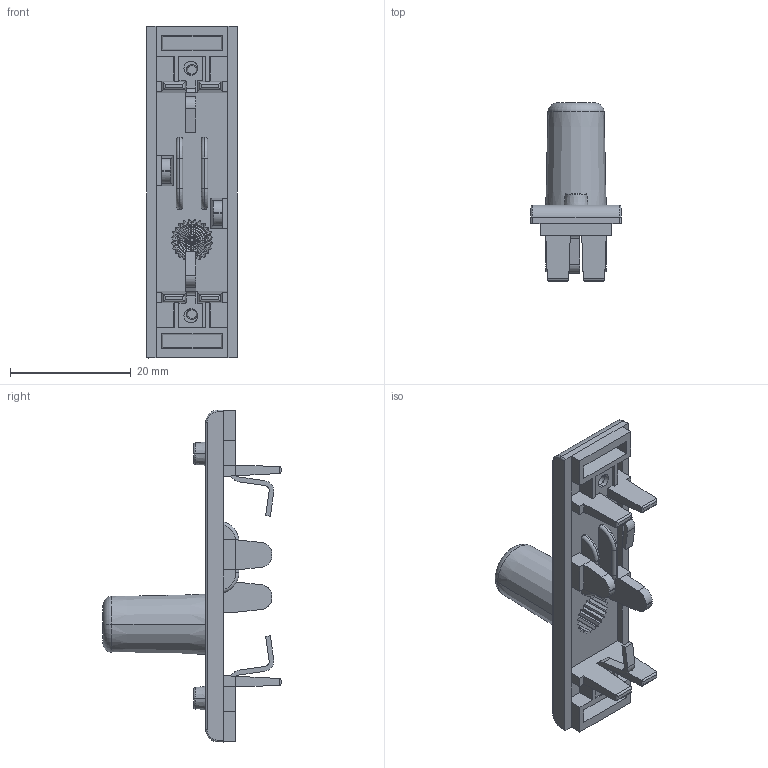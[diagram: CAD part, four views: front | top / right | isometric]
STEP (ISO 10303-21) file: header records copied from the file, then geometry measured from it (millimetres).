
FILE_DESCRIPTION((''),'2;1');
FILE_NAME('ASM0001_ASM','2016-06-16T',('Administrator'),(''),'PRO/ENGINEER BY PARAMETRIC TECHNOLOGY CORPORATION, 2012360','PRO/ENGINEER BY PARAMETRIC TECHNOLOGY CORPORATION, 2012360','');
FILE_SCHEMA(('CONFIG_CONTROL_DESIGN'));
Length unit declared in the file: inch
Products named in the file (1): ASM0001_ASM
Bounding box: 15 x 29.5 x 55 mm (x, y, z)
Volume: 3402.4 mm3; surface area: 4402.7 mm2
Topology: 1 solids, 1 shells, 335 faces, 866 edges, 544 vertices
Faces by surface type: plane 199, cylinder 60, cone 58, torus 18
Entity records: 10341 total; most frequent: CARTESIAN_POINT 2172, ORIENTED_EDGE 1732, DIRECTION 1640, EDGE_CURVE 866, VECTOR 582, LINE 582, VERTEX_POINT 544, AXIS2_PLACEMENT_3D 529
